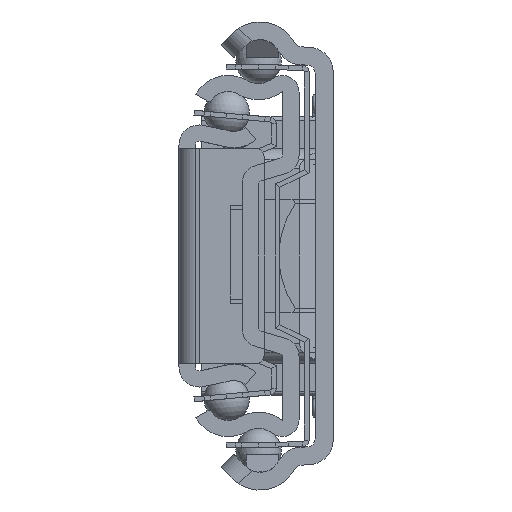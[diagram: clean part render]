
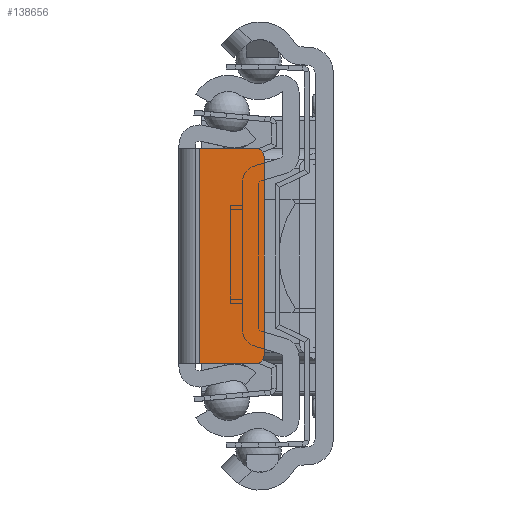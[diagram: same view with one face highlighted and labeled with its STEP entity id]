
A CAD part, left-side view. The second image highlights one B-rep face of the part: STEP entity #138656.
In plain terms, the highlighted planar face has unit normal (-1, 0, 0).
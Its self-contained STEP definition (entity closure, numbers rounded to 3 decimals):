
#132634=CARTESIAN_POINT('',(0.,-9.,-12.25));
#132635=DIRECTION('',(-1.,0.,0.));
#132636=DIRECTION('',(0.,0.,-1.));
#132637=AXIS2_PLACEMENT_3D('',#132634,#132635,#132636);
#132639=DIRECTION('',(0.,0.,-1.));
#132640=VECTOR('',#132639,26.5);
#132641=CARTESIAN_POINT('',(0.,-2.,13.25));
#132642=LINE('',#132641,#132640);
#132643=CARTESIAN_POINT('',(0.,-9.,12.25));
#132644=DIRECTION('',(-1.,0.,0.));
#132645=DIRECTION('',(0.,-1.,0.));
#132646=AXIS2_PLACEMENT_3D('',#132643,#132644,#132645);
#132665=DIRECTION('',(0.,-1.,0.));
#132666=VECTOR('',#132665,7.);
#132667=CARTESIAN_POINT('',(0.,-2.,-13.25));
#132668=LINE('',#132667,#132666);
#133839=DIRECTION('',(0.,-1.,0.));
#133840=VECTOR('',#133839,7.);
#133841=CARTESIAN_POINT('',(0.,-2.,13.25));
#133842=LINE('',#133841,#133840);
#133860=DIRECTION('',(0.,0.,1.));
#133861=VECTOR('',#133860,24.5);
#133862=CARTESIAN_POINT('',(0.,-10.,-12.25));
#133863=LINE('',#133862,#133861);
#137160=CARTESIAN_POINT('',(0.,-2.,-13.25));
#137162=VERTEX_POINT('',#137160);
#137169=CARTESIAN_POINT('',(0.,-2.,13.25));
#137171=VERTEX_POINT('',#137169);
#137188=CARTESIAN_POINT('',(0.,-9.,-13.25));
#137189=CARTESIAN_POINT('',(0.,-10.,-12.25));
#137190=VERTEX_POINT('',#137188);
#137191=VERTEX_POINT('',#137189);
#137200=CARTESIAN_POINT('',(0.,-10.,12.25));
#137201=VERTEX_POINT('',#137200);
#137202=CARTESIAN_POINT('',(0.,-9.,13.25));
#137203=VERTEX_POINT('',#137202);
#138638=CARTESIAN_POINT('',(0.,0.5,-13.25));
#138639=DIRECTION('',(-1.,0.,0.));
#138640=DIRECTION('',(0.,-1.,0.));
#138641=AXIS2_PLACEMENT_3D('',#138638,#138639,#138640);
#138642=PLANE('',#138641);
#138643=ORIENTED_EDGE('',*,*,#138628,.F.);
#138645=ORIENTED_EDGE('',*,*,#138644,.F.);
#138647=ORIENTED_EDGE('',*,*,#138646,.F.);
#138649=ORIENTED_EDGE('',*,*,#138648,.T.);
#138651=ORIENTED_EDGE('',*,*,#138650,.F.);
#138653=ORIENTED_EDGE('',*,*,#138652,.F.);
#138654=EDGE_LOOP('',(#138643,#138645,#138647,#138649,#138651,#138653));
#138655=FACE_OUTER_BOUND('',#138654,.F.);
#132638=CIRCLE('',#132637,1.);
#132647=CIRCLE('',#132646,1.);
#138628=EDGE_CURVE('',#137190,#137191,#132638,.T.);
#138644=EDGE_CURVE('',#137162,#137190,#132668,.T.);
#138646=EDGE_CURVE('',#137171,#137162,#132642,.T.);
#138648=EDGE_CURVE('',#137171,#137203,#133842,.T.);
#138650=EDGE_CURVE('',#137201,#137203,#132647,.T.);
#138652=EDGE_CURVE('',#137191,#137201,#133863,.T.);
#138656=ADVANCED_FACE('',(#138655),#138642,.T.);
